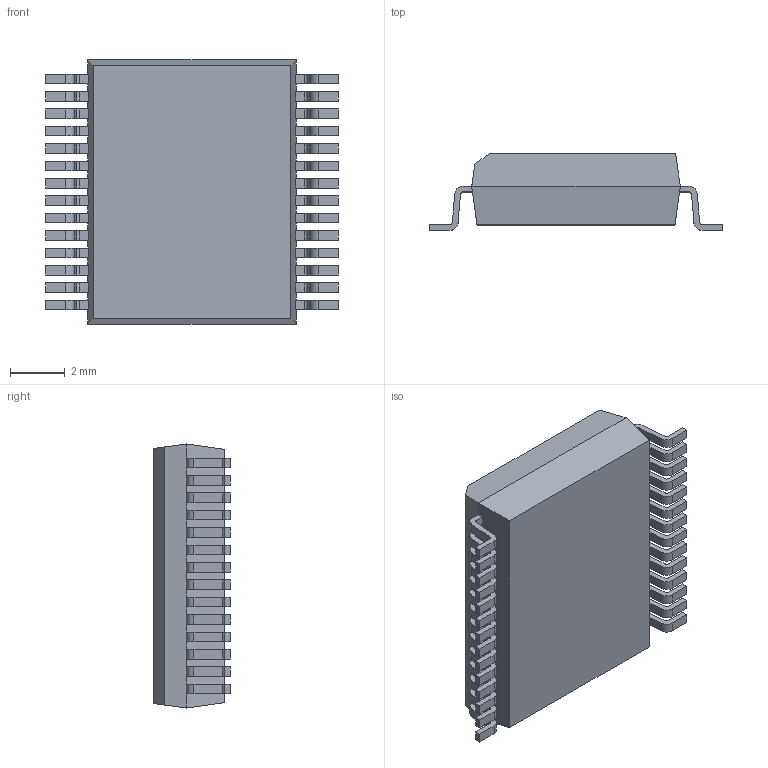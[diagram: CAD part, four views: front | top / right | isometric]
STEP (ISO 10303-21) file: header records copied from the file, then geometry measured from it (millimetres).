
FILE_DESCRIPTION (( 'STEP AP214' ), '1' );
FILE_NAME ('SOP63P1050X280-28_MO-118.AC.STEP', '2014-10-31T14:00:40', ( 'Tester2' ), ( '' ), 'SwSTEP 2.0', 'SolidWorks 2012', '' );
FILE_SCHEMA (( 'AUTOMOTIVE_DESIGN' ));
Length unit declared in the file: millimetre
Products named in the file (1): SOP63P1050X280-28_MO-118.AC
Bounding box: 10.7 x 2.8 x 9.65 mm (x, y, z)
Volume: 187.7 mm3; surface area: 305.9 mm2
Topology: 1 solids, 1 shells, 378 faces, 1121 edges, 746 vertices
Faces by surface type: plane 264, cylinder 114
Entity records: 16672 total; most frequent: CARTESIAN_POINT 2246, ORIENTED_EDGE 2242, DIRECTION 2107, EDGE_CURVE 1121, LINE 893, VECTOR 893, VERTEX_POINT 746, AXIS2_PLACEMENT_3D 607
